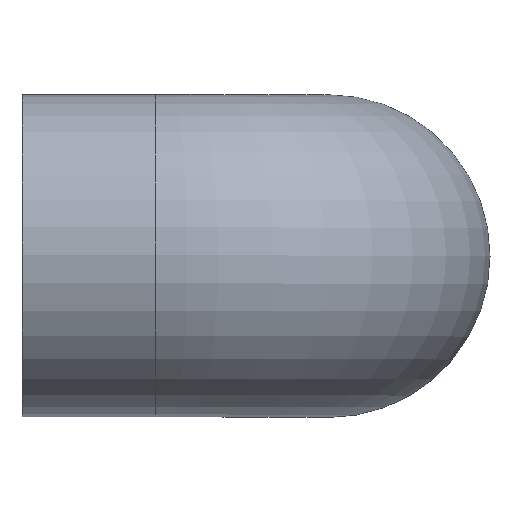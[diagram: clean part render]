
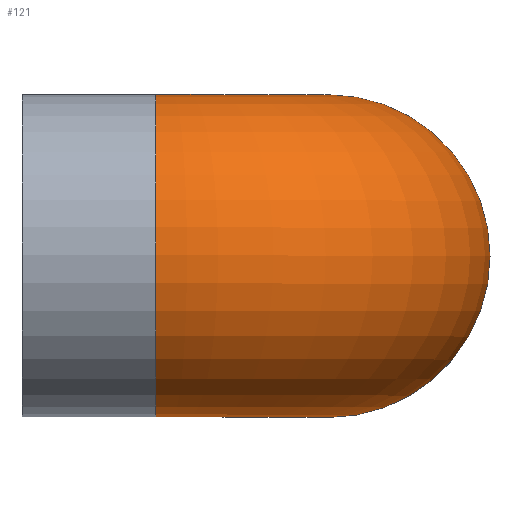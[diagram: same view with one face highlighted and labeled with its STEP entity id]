
A CAD part, top view. The second image highlights one B-rep face of the part: STEP entity #121.
In plain terms, the highlighted toroidal (fillet/blend) face has major radius 22 mm and minor radius 20.5 mm.
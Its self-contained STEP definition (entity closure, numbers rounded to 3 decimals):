
#29=FACE_BOUND('',#56,.T.);
#39=FACE_OUTER_BOUND('',#55,.T.);
#55=EDGE_LOOP('',(#105));
#56=EDGE_LOOP('',(#106));
#70=CIRCLE('',#140,20.5);
#71=CIRCLE('',#142,20.5);
#80=VERTEX_POINT('',#210);
#81=VERTEX_POINT('',#213);
#90=EDGE_CURVE('',#80,#80,#70,.T.);
#91=EDGE_CURVE('',#81,#81,#71,.T.);
#105=ORIENTED_EDGE('',*,*,#90,.F.);
#106=ORIENTED_EDGE('',*,*,#91,.T.);
#114=TOROIDAL_SURFACE('',#141,22.,20.5);
#121=ADVANCED_FACE('',(#39,#29),#114,.T.);
#140=AXIS2_PLACEMENT_3D('',#211,#175,#176);
#141=AXIS2_PLACEMENT_3D('',#212,#177,#178);
#142=AXIS2_PLACEMENT_3D('',#214,#179,#180);
#175=DIRECTION('center_axis',(-1.,0.,0.));
#176=DIRECTION('ref_axis',(0.,0.,-1.));
#177=DIRECTION('center_axis',(0.,-1.,0.));
#178=DIRECTION('ref_axis',(0.,0.,-1.));
#179=DIRECTION('center_axis',(0.,0.,1.));
#180=DIRECTION('ref_axis',(-1.,0.,0.));
#210=CARTESIAN_POINT('',(-22.,0.,59.5));
#211=CARTESIAN_POINT('Origin',(-22.,0.,39.));
#212=CARTESIAN_POINT('Origin',(-22.,0.,17.));
#213=CARTESIAN_POINT('',(20.5,0.,17.));
#214=CARTESIAN_POINT('Origin',(0.,0.,17.));
